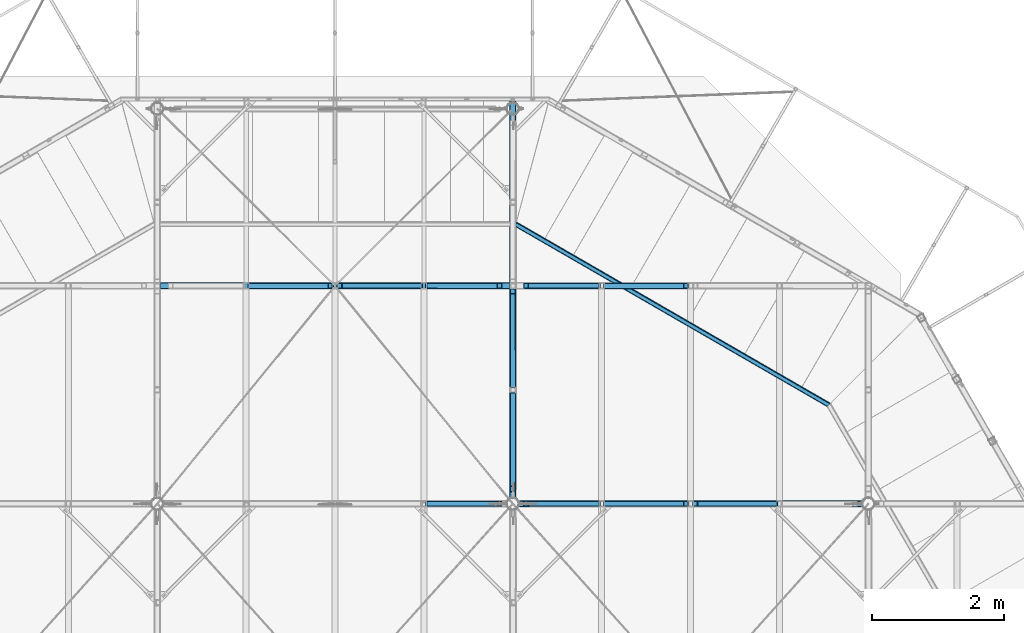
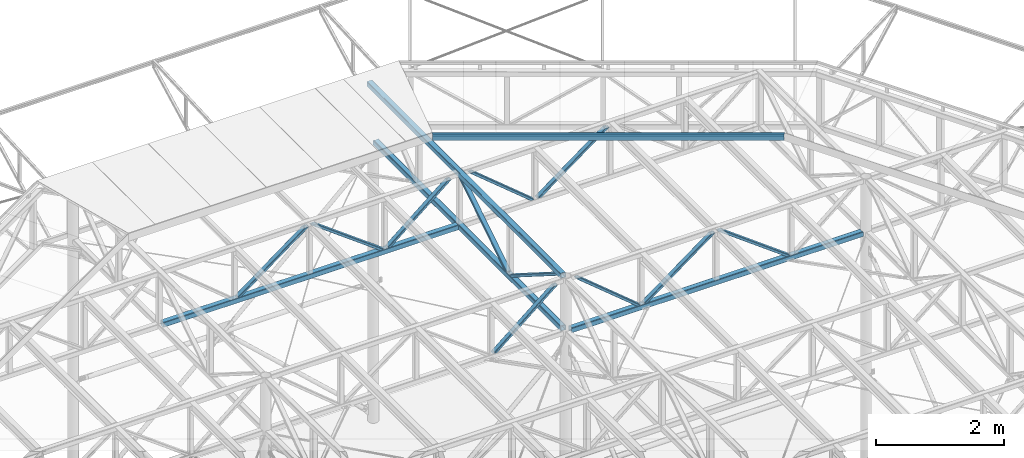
# One storey, part 57 of 132: 17 discrete accessories, 7 elements without a shape of their own.
"""IFC2X3 building model written with IfcOpenShell, lengths in millimetres."""

from ifc_helpers import new_model, si_unit, frame, origin_with_axes, origin_2d_with_axis, place, context, subcontext, project, spatial, hollow_rectangle, circle, l_section, extrude, boolean, clip, halfspace, material, type_object, element, aggregate, save


model = new_model("IFC2X3")

# Units and contexts
model_context = context("Model", 3, precision=1e-05, world=origin_with_axes())
body_context = subcontext(model_context, "Body", "Model", "MODEL_VIEW")
ifc_project = project(units=[si_unit("LENGTHUNIT", "METRE", prefix="MILLI"), si_unit("AREAUNIT", "SQUARE_METRE"), si_unit("VOLUMEUNIT", "CUBIC_METRE"), si_unit("MASSUNIT", "GRAM", prefix="KILO"), si_unit("TIMEUNIT", "SECOND"), si_unit("PLANEANGLEUNIT", "RADIAN"), si_unit("SOLIDANGLEUNIT", "STERADIAN"), si_unit("THERMODYNAMICTEMPERATUREUNIT", "DEGREE_CELSIUS"), si_unit("LUMINOUSINTENSITYUNIT", "LUMEN")], contexts=[model_context])

# Site, building, storey
site_placement = place(None, origin_with_axes())
site = spatial("IfcSite", under=ifc_project, at=site_placement, Name="Budowa", CompositionType="ELEMENT")
building_placement = place(site_placement, origin_with_axes())
building = spatial("IfcBuilding", under=site, at=building_placement, Name="Undefined", CompositionType="ELEMENT")
storey_placement = place(building_placement, origin_with_axes())
storey = spatial("IfcBuildingStorey", under=building, at=storey_placement, Name="Undefined", CompositionType="ELEMENT", Elevation=0.0)

# Assembly, discrete accessory
assembly_1_placement = place(storey_placement, origin_with_axes())
assembly_1 = element("IfcElementAssembly", 1, at=assembly_1_placement, inside=storey, Name="Steel Assembly", AssemblyPlace="NOTDEFINED", PredefinedType="RIGID_FRAME")
ifc_material = material(Name="STEEL/S235")
discrete_accessory_type = type_object("IfcDiscreteAccessoryType", Name="BEAM")
discrete_accessory_1_placement = place(assembly_1_placement, frame((19617.596240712, 19501.7456972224, 13965.0), z_axis=(0.5000000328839, 0.866025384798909, 0.0), x_axis=(-0.86602545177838, 0.499999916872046, 0.0)))
discrete_accessory_1 = element("IfcDiscreteAccessory", 2, at=discrete_accessory_1_placement, type_object=discrete_accessory_type, material=ifc_material, Name="BEAM", ObjectType="L50*6", context=body_context, shape_type="Clipping", body=[
    clip(clip(extrude(l_section(Depth=50.0, Width=50.0, Thickness=6.0, FilletRadius=7.0, EdgeRadius=3.5, at=origin_2d_with_axis()), frame((5526.24408815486, 0.0, 0.0), z_axis=(-1.0, 0.0, 0.0), x_axis=(0.0, -1.0, 0.0)), (0.0, 0.0, 1.0), 5576.68), halfspace(frame((5475.81107044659, 0.0, -25.0000000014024), z_axis=(-0.965925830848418, 0.0, 0.258819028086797), x_axis=(0.0, 1.0, 0.0)), True)), halfspace(frame((3.51101334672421e-08, 0.0, -24.9999999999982), z_axis=(-0.965925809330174, 0.0, -0.258819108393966), x_axis=(0.0, 1.0, 0.0)), False)),
])
aggregate(assembly_1, [discrete_accessory_1])

assembly_2_placement = place(storey_placement, origin_with_axes())
assembly_2 = element("IfcElementAssembly", 3, at=assembly_2_placement, inside=storey, Name="Steel Assembly", AssemblyPlace="NOTDEFINED", PredefinedType="RIGID_FRAME")
discrete_accessory_2_placement = place(assembly_2_placement, frame((19617.2577841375, 19505.9825575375, 13955.0), z_axis=(0.0, 0.0, 1.0), x_axis=(-0.86602545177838, 0.499999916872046, 0.0)))
discrete_accessory_2 = element("IfcDiscreteAccessory", 4, at=discrete_accessory_2_placement, type_object=discrete_accessory_type, material=ifc_material, Name="BEAM", ObjectType="L150*75*9", context=body_context, shape_type="Clipping", body=[
    clip(clip(extrude(l_section(Depth=150.0, Width=75.0, Thickness=9.0, FilletRadius=10.5, EdgeRadius=5.5, at=origin_2d_with_axis()), frame((5546.63751112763, 0.0, -1.81898940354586e-12), z_axis=(-1.0, 0.0, 0.0), x_axis=(0.0, -1.0, 0.0)), (0.0, 0.0, 1.0), 5622.29), halfspace(frame((5491.08417482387, -37.4999999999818, 1.81898940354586e-12), z_axis=(0.965925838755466, 0.258818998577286, 0.0), x_axis=(0.0, 0.0, 1.0)), False)), halfspace(frame((-20.0961854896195, -37.4999999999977, 0.0), z_axis=(0.965925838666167, -0.258818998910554, 0.0), x_axis=(0.0, 0.0, 1.0)), True)),
])
aggregate(assembly_2, [discrete_accessory_2])

# Assembly, discrete accessories
assembly_3_placement = place(storey_placement, origin_with_axes())
assembly_3 = element("IfcElementAssembly", 5, at=assembly_3_placement, inside=storey, Name="Steel Assembly", AssemblyPlace="NOTDEFINED", PredefinedType="RIGID_FRAME")
discrete_accessory_3_placement = place(assembly_3_placement, frame((14965.9999999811, 21310.0000000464, 13830.0), z_axis=(0.0, -1.0, 0.0), x_axis=(0.770567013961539, 0.0, -0.637358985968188)))
solid_1 = boolean("DIFFERENCE", boolean("DIFFERENCE", extrude(hollow_rectangle(XDim=90.0, YDim=90.0, WallThickness=6.0, InnerFilletRadius=6.0, OuterFilletRadius=12.0, at=origin_2d_with_axis()), frame((1537.1065565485, 38.528350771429, -6.22094376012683e-10), z_axis=(-0.637358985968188, 0.770567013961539, 0.0), x_axis=(-0.770567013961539, -0.637358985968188, 0.0)), (0.0, 0.0, 1.0), 900.0), halfspace(frame((1537.1065565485, 38.5283507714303, 999.999999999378), z_axis=(-0.637358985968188, 0.770567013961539, 0.0), x_axis=(-0.770567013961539, -0.637358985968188, 0.0)), True)), halfspace(frame((963.483469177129, 732.038663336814, 999.999999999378), z_axis=(0.637358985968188, -0.770567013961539, 0.0), x_axis=(0.770567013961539, 0.637358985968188, 0.0)), True))
discrete_accessory_3 = element("IfcDiscreteAccessory", 6, at=discrete_accessory_3_placement, type_object=discrete_accessory_type, material=ifc_material, Name="BEAM", ObjectType="RHS90*50*5", context=body_context, shape_type="CSG", body=[
    boolean("DIFFERENCE", boolean("DIFFERENCE", boolean("DIFFERENCE", extrude(hollow_rectangle(XDim=50.0, YDim=90.0, WallThickness=5.0, InnerFilletRadius=7.5, OuterFilletRadius=12.5, at=origin_2d_with_axis()), frame((1533.07734352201, 2.27373675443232e-12, 0.0), z_axis=(-1.0, 0.0, 0.0), x_axis=(0.0, -1.0, 0.0)), (0.0, 0.0, 1.0), 1497.18), solid_1), halfspace(frame((1537.1065565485, 38.5283507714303, 999.999999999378), z_axis=(-0.637358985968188, 0.770567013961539, 0.0), x_axis=(-0.770567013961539, -0.637358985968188, 0.0)), True)), halfspace(frame((31.867949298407, -38.5283506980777, 1000.0), z_axis=(0.637358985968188, -0.770567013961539, 0.0), x_axis=(0.770567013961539, 0.637358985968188, 0.0)), True)),
])
discrete_accessory_4_placement = place(assembly_3_placement, frame((17524.9999999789, 21310.0000000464, 13830.0), z_axis=(0.0, -1.0, 0.0), x_axis=(-0.803557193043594, 0.0, -0.595227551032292)))
solid_2 = boolean("DIFFERENCE", boolean("DIFFERENCE", extrude(hollow_rectangle(XDim=90.0, YDim=90.0, WallThickness=6.0, InnerFilletRadius=6.0, OuterFilletRadius=12.0, at=origin_2d_with_axis()), frame((565.466173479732, 763.379333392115, -6.22094376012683e-10), z_axis=(-0.595227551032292, -0.803557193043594, 0.0), x_axis=(0.803557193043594, -0.595227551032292, 0.0)), (0.0, 0.0, 1.0), 900.0), halfspace(frame((565.46617347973, 763.379333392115, 999.999999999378), z_axis=(-0.595227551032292, -0.803557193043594, 0.0), x_axis=(0.803557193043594, -0.595227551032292, 0.0)), True)), halfspace(frame((29.7613775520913, 40.1778596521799, 1000.0), z_axis=(0.595227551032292, 0.803557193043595, 0.0), x_axis=(-0.803557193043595, 0.595227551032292, 0.0)), True))
solid_3 = boolean("DIFFERENCE", boolean("DIFFERENCE", extrude(hollow_rectangle(XDim=90.0, YDim=90.0, WallThickness=6.0, InnerFilletRadius=6.0, OuterFilletRadius=12.0, at=origin_2d_with_axis()), frame((1650.26838408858, -40.1778605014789, -6.22094376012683e-10), z_axis=(-0.595227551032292, -0.803557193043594, 0.0), x_axis=(0.803557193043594, -0.595227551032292, 0.0)), (0.0, 0.0, 1.0), 900.0), halfspace(frame((1650.2683829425, -40.1778596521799, 1000.0), z_axis=(-0.595227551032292, -0.803557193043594, 0.0), x_axis=(0.803557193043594, -0.595227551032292, 0.0)), True)), halfspace(frame((1114.56358815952, -763.379334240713, 999.999999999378), z_axis=(0.595227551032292, 0.803557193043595, 0.0), x_axis=(-0.803557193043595, 0.595227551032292, 0.0)), True))
discrete_accessory_4 = element("IfcDiscreteAccessory", 7, at=discrete_accessory_4_placement, type_object=discrete_accessory_type, material=ifc_material, Name="BEAM", ObjectType="RHS90*50*5", context=body_context, shape_type="CSG", body=[
    boolean("DIFFERENCE", boolean("DIFFERENCE", boolean("DIFFERENCE", boolean("DIFFERENCE", extrude(hollow_rectangle(XDim=50.0, YDim=90.0, WallThickness=5.0, InnerFilletRadius=7.5, OuterFilletRadius=12.5, at=origin_2d_with_axis()), frame((1632.54994793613, 0.0, 0.0), z_axis=(-1.0, 0.0, 0.0), x_axis=(0.0, -1.0, 0.0)), (0.0, 0.0, 1.0), 1585.07), solid_2), solid_3), halfspace(frame((1650.2683829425, -40.1778596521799, 1000.0), z_axis=(-0.595227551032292, -0.803557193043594, 0.0), x_axis=(0.803557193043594, -0.595227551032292, 0.0)), True)), halfspace(frame((29.7613775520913, 40.1778596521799, 1000.0), z_axis=(0.595227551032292, 0.803557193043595, 0.0), x_axis=(-0.803557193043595, 0.595227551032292, 0.0)), True)),
])
aggregate(assembly_3, [discrete_accessory_3, discrete_accessory_4])

assembly_4_placement = place(storey_placement, origin_with_axes())
assembly_4 = element("IfcElementAssembly", 8, at=assembly_4_placement, inside=storey, Name="Steel Assembly", AssemblyPlace="NOTDEFINED", PredefinedType="RIGID_FRAME")
discrete_accessory_5_placement = place(assembly_4_placement, frame((14824.9999999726, 18148.0386350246, 13830.0000000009), z_axis=(1.0, 0.0, 0.0), x_axis=(0.0, 0.845133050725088, -0.534556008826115)))
solid_4 = boolean("DIFFERENCE", boolean("DIFFERENCE", extrude(hollow_rectangle(XDim=90.0, YDim=90.0, WallThickness=6.0, InnerFilletRadius=6.0, OuterFilletRadius=12.0, at=origin_2d_with_axis()), frame((1362.85050194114, 802.855744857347, -4.56930138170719e-09), z_axis=(0.534556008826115, -0.845133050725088, 0.0), x_axis=(-0.845133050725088, -0.534556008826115, 0.0)), (0.0, 0.0, 1.0), 900.0), halfspace(frame((1362.85050194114, 802.855744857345, -1000.00000000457), z_axis=(0.534556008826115, -0.845133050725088, 0.0), x_axis=(0.0, 0.0, 1.0)), True)), halfspace(frame((1843.95090988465, 42.2359992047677, -1000.00000000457), z_axis=(-0.534556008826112, 0.84513305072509, 0.0), x_axis=(0.0, 0.0, 1.0)), True))
discrete_accessory_5 = element("IfcDiscreteAccessory", 9, at=discrete_accessory_5_placement, type_object=discrete_accessory_type, material=ifc_material, Name="BEAM", ObjectType="RHS90*50*5", context=body_context, shape_type="CSG", body=[
    boolean("DIFFERENCE", boolean("DIFFERENCE", boolean("DIFFERENCE", extrude(hollow_rectangle(XDim=50.0, YDim=90.0, WallThickness=5.0, InnerFilletRadius=7.5, OuterFilletRadius=12.5, at=origin_2d_with_axis()), frame((1846.12761391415, 0.0, 0.0), z_axis=(-1.0, 0.0, 0.0), x_axis=(0.0, -1.0, 0.0)), (0.0, 0.0, 1.0), 1821.54), solid_4), halfspace(frame((1843.98356280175, 42.2566525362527, 1000.0), z_axis=(-0.534556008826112, 0.84513305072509, 0.0), x_axis=(-0.845133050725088, -0.534556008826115, 0.0)), True)), halfspace(frame((26.7278004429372, -42.2566525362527, 1000.0), z_axis=(0.534556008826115, -0.845133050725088, 0.0), x_axis=(0.845133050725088, 0.534556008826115, 0.0)), True)),
])
discrete_accessory_6_placement = place(assembly_4_placement, frame((14824.9999999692, 21310.0000000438, 13830.0000000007), z_axis=(1.0, 0.0, 0.0), x_axis=(0.0, -0.845133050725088, -0.534556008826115)))
solid_5 = boolean("DIFFERENCE", boolean("DIFFERENCE", extrude(hollow_rectangle(XDim=90.0, YDim=90.0, WallThickness=6.0, InnerFilletRadius=6.0, OuterFilletRadius=12.0, at=origin_2d_with_axis()), frame((26.727800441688, 42.2566525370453, -4.56930138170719e-09), z_axis=(0.534556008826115, 0.845133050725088, 0.0), x_axis=(0.845133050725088, -0.534556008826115, 0.0)), (0.0, 0.0, 1.0), 900.0), halfspace(frame((26.7278004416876, 42.2566525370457, -1000.00000000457), z_axis=(0.534556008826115, 0.845133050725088, 0.0), x_axis=(0.0, 0.0, 1.0)), True)), halfspace(frame((507.828208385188, 802.876398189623, -1000.00000000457), z_axis=(-0.534556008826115, -0.845133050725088, 0.0), x_axis=(0.0, 0.0, 1.0)), True))
solid_6 = boolean("DIFFERENCE", boolean("DIFFERENCE", extrude(hollow_rectangle(XDim=90.0, YDim=90.0, WallThickness=6.0, InnerFilletRadius=6.0, OuterFilletRadius=12.0, at=origin_2d_with_axis()), frame((1362.88315363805, -802.876397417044, -4.56930138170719e-09), z_axis=(0.534556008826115, 0.845133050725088, 0.0), x_axis=(0.845133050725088, -0.534556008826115, 0.0)), (0.0, 0.0, 1.0), 900.0), halfspace(frame((1362.88315363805, -802.876397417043, -1000.00000000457), z_axis=(0.534556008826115, 0.845133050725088, 0.0), x_axis=(0.0, 0.0, 1.0)), True)), halfspace(frame((1843.98356158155, -42.2566517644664, -1000.00000000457), z_axis=(-0.534556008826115, -0.845133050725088, 0.0), x_axis=(0.0, 0.0, 1.0)), True))
discrete_accessory_6 = element("IfcDiscreteAccessory", 10, at=discrete_accessory_6_placement, type_object=discrete_accessory_type, material=ifc_material, Name="BEAM", ObjectType="RHS90*50*5", context=body_context, shape_type="CSG", body=[
    boolean("DIFFERENCE", boolean("DIFFERENCE", boolean("DIFFERENCE", boolean("DIFFERENCE", extrude(hollow_rectangle(XDim=50.0, YDim=90.0, WallThickness=5.0, InnerFilletRadius=7.5, OuterFilletRadius=12.5, at=origin_2d_with_axis()), frame((1835.3048903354, 0.0, 0.0), z_axis=(-1.0, 0.0, 0.0), x_axis=(0.0, -1.0, 0.0)), (0.0, 0.0, 1.0), 1799.9), solid_5), solid_6), halfspace(frame((1843.98356280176, -42.2566525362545, 1000.0), z_axis=(-0.534556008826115, -0.845133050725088, 0.0), x_axis=(0.845133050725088, -0.534556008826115, 0.0)), True)), halfspace(frame((26.7278004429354, 42.2566525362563, 1000.0), z_axis=(0.534556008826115, 0.845133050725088, 0.0), x_axis=(-0.845133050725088, 0.534556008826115, 0.0)), True)),
])
discrete_accessory_7_placement = place(assembly_4_placement, frame((14824.999999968, 23911.1000000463, 12830.0), z_axis=(1.0, 0.0, 0.0), x_axis=(0.0, -1.0, 0.0)))
discrete_accessory_7 = element("IfcDiscreteAccessory", 11, at=discrete_accessory_7_placement, type_object=discrete_accessory_type, material=ifc_material, Name="BEAM", ObjectType="SHS100*8", context=body_context, shape_type="CSG", body=[
    boolean("DIFFERENCE", boolean("DIFFERENCE", boolean("DIFFERENCE", boolean("DIFFERENCE", extrude(hollow_rectangle(XDim=100.0, YDim=100.0, WallThickness=8.0, InnerFilletRadius=8.0, OuterFilletRadius=16.0, at=origin_2d_with_axis()), frame((5911.09999999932, 0.0, 0.0), z_axis=(-1.0, 0.0, 0.0), x_axis=(0.0, -1.0, 0.0)), (0.0, 0.0, 1.0), 6000.0), extrude(circle(Radius=89.9, at=origin_2d_with_axis()), frame((-88.9000001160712, -1950.0, -7.27595761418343e-12), z_axis=(0.0, 1.0, 0.0), x_axis=(1.0, 0.0, 0.0)), (0.0, 0.0, 1.0), 2100.0)), extrude(circle(Radius=89.9, at=origin_2d_with_axis()), frame((5911.09999999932, -1950.0, -7.27595761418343e-12), z_axis=(0.0, 1.0, 0.0), x_axis=(1.0, 0.0, 0.0)), (0.0, 0.0, 1.0), 2100.0)), halfspace(frame((5911.09999999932, 5339.0, -7.27595761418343e-12), z_axis=(-1.0, 0.0, 0.0), x_axis=(0.0, 0.0, 1.0)), True)), halfspace(frame((-88.9000001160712, 5339.0, -7.27595761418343e-12), z_axis=(-1.0, 0.0, 0.0), x_axis=(0.0, 0.0, 1.0)), False)),
])
discrete_accessory_8_placement = place(assembly_4_placement, frame((14824.999999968, 24114.9000000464, 13830.0), z_axis=(1.0, 0.0, 0.0), x_axis=(0.0, -1.0, 0.0)))
discrete_accessory_8 = element("IfcDiscreteAccessory", 12, at=discrete_accessory_8_placement, type_object=discrete_accessory_type, material=ifc_material, Name="BEAM", ObjectType="SHS100*8", context=body_context, shape_type="CSG", body=[
    boolean("DIFFERENCE", boolean("DIFFERENCE", extrude(hollow_rectangle(XDim=100.0, YDim=100.0, WallThickness=8.0, InnerFilletRadius=8.0, OuterFilletRadius=16.0, at=origin_2d_with_axis()), frame((6114.89999999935, 0.0, 0.0), z_axis=(-1.0, 0.0, 0.0), x_axis=(0.0, -1.0, 0.0)), (0.0, 0.0, 1.0), 6114.9), extrude(circle(Radius=89.9, at=origin_2d_with_axis()), frame((6114.89999999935, -1950.0, -7.27595761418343e-12), z_axis=(0.0, 1.0, 0.0), x_axis=(1.0, 0.0, 0.0)), (0.0, 0.0, 1.0), 2100.0)), halfspace(frame((6114.89999999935, 6339.0, -7.27595761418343e-12), z_axis=(-1.0, 0.0, 0.0), x_axis=(0.0, 0.0, 1.0)), True)),
])
aggregate(assembly_4, [discrete_accessory_5, discrete_accessory_6, discrete_accessory_7, discrete_accessory_8])

assembly_5_placement = place(storey_placement, origin_with_axes())
assembly_5 = element("IfcElementAssembly", 13, at=assembly_5_placement, inside=storey, Name="Steel Assembly", AssemblyPlace="NOTDEFINED", PredefinedType="RIGID_FRAME")
discrete_accessory_9_placement = place(assembly_5_placement, frame((14683.9999999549, 21310.0000000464, 13830.0), z_axis=(0.0, -1.0, 0.0), x_axis=(-0.770567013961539, 0.0, -0.637358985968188)))
solid_7 = boolean("DIFFERENCE", boolean("DIFFERENCE", extrude(hollow_rectangle(XDim=90.0, YDim=90.0, WallThickness=6.0, InnerFilletRadius=6.0, OuterFilletRadius=12.0, at=origin_2d_with_axis()), frame((1537.1065565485, -38.5283507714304, -6.22094376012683e-10), z_axis=(-0.637358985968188, -0.770567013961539, 0.0), x_axis=(0.770567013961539, -0.637358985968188, 0.0)), (0.0, 0.0, 1.0), 900.0), halfspace(frame((1537.1065565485, -38.5283507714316, 999.999999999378), z_axis=(-0.637358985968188, -0.770567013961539, 0.0), x_axis=(0.770567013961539, -0.637358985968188, 0.0)), True)), halfspace(frame((963.483469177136, -732.038663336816, 999.999999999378), z_axis=(0.637358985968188, 0.770567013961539, 0.0), x_axis=(-0.770567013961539, 0.637358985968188, 0.0)), True))
discrete_accessory_9 = element("IfcDiscreteAccessory", 14, at=discrete_accessory_9_placement, type_object=discrete_accessory_type, material=ifc_material, Name="BEAM", ObjectType="RHS90*50*5", context=body_context, shape_type="CSG", body=[
    boolean("DIFFERENCE", boolean("DIFFERENCE", boolean("DIFFERENCE", extrude(hollow_rectangle(XDim=50.0, YDim=90.0, WallThickness=5.0, InnerFilletRadius=7.5, OuterFilletRadius=12.5, at=origin_2d_with_axis()), frame((1533.07734352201, 2.27373675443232e-12, 0.0), z_axis=(-1.0, 0.0, 0.0), x_axis=(0.0, -1.0, 0.0)), (0.0, 0.0, 1.0), 1497.18), solid_7), halfspace(frame((1537.1065565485, -38.5283507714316, 999.999999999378), z_axis=(-0.637358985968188, -0.770567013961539, 0.0), x_axis=(0.770567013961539, -0.637358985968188, 0.0)), True)), halfspace(frame((31.867949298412, 38.52835069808, 1000.0), z_axis=(0.637358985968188, 0.770567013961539, 0.0), x_axis=(-0.770567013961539, 0.637358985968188, 0.0)), True)),
])
discrete_accessory_10_placement = place(assembly_5_placement, frame((12124.9999999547, 21310.0000000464, 13830.0), z_axis=(0.0, -1.0, 0.0), x_axis=(-0.803557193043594, 0.0, -0.595227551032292)))
solid_8 = boolean("DIFFERENCE", boolean("DIFFERENCE", extrude(hollow_rectangle(XDim=90.0, YDim=90.0, WallThickness=6.0, InnerFilletRadius=6.0, OuterFilletRadius=12.0, at=origin_2d_with_axis()), frame((565.466173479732, 763.379333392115, -6.22094376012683e-10), z_axis=(-0.595227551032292, -0.803557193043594, 0.0), x_axis=(0.803557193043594, -0.595227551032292, 0.0)), (0.0, 0.0, 1.0), 900.0), halfspace(frame((565.46617347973, 763.379333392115, 999.999999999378), z_axis=(-0.595227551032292, -0.803557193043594, 0.0), x_axis=(0.803557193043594, -0.595227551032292, 0.0)), True)), halfspace(frame((29.7613775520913, 40.1778596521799, 1000.0), z_axis=(0.595227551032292, 0.803557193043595, 0.0), x_axis=(-0.803557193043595, 0.595227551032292, 0.0)), True))
solid_9 = boolean("DIFFERENCE", boolean("DIFFERENCE", extrude(hollow_rectangle(XDim=90.0, YDim=90.0, WallThickness=6.0, InnerFilletRadius=6.0, OuterFilletRadius=12.0, at=origin_2d_with_axis()), frame((1650.26838408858, -40.1778605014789, -6.22094376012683e-10), z_axis=(-0.595227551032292, -0.803557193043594, 0.0), x_axis=(0.803557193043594, -0.595227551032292, 0.0)), (0.0, 0.0, 1.0), 900.0), halfspace(frame((1650.2683829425, -40.1778596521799, 1000.0), z_axis=(-0.595227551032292, -0.803557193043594, 0.0), x_axis=(0.803557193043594, -0.595227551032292, 0.0)), True)), halfspace(frame((1114.56358815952, -763.379334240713, 999.999999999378), z_axis=(0.595227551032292, 0.803557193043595, 0.0), x_axis=(-0.803557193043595, 0.595227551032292, 0.0)), True))
discrete_accessory_10 = element("IfcDiscreteAccessory", 15, at=discrete_accessory_10_placement, type_object=discrete_accessory_type, material=ifc_material, Name="BEAM", ObjectType="RHS90*50*5", context=body_context, shape_type="CSG", body=[
    boolean("DIFFERENCE", boolean("DIFFERENCE", boolean("DIFFERENCE", boolean("DIFFERENCE", extrude(hollow_rectangle(XDim=50.0, YDim=90.0, WallThickness=5.0, InnerFilletRadius=7.5, OuterFilletRadius=12.5, at=origin_2d_with_axis()), frame((1632.54994793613, 0.0, 0.0), z_axis=(-1.0, 0.0, 0.0), x_axis=(0.0, -1.0, 0.0)), (0.0, 0.0, 1.0), 1585.07), solid_8), solid_9), halfspace(frame((1650.2683829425, -40.1778596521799, 1000.0), z_axis=(-0.595227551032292, -0.803557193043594, 0.0), x_axis=(0.803557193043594, -0.595227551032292, 0.0)), True)), halfspace(frame((29.7613775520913, 40.1778596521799, 1000.0), z_axis=(0.595227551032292, 0.803557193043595, 0.0), x_axis=(-0.803557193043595, 0.595227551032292, 0.0)), True)),
])
discrete_accessory_11_placement = place(assembly_5_placement, frame((12124.9999999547, 21310.0000000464, 13830.0), z_axis=(0.0, -1.0, 0.0), x_axis=(0.803557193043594, 0.0, -0.595227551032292)))
solid_10 = boolean("DIFFERENCE", boolean("DIFFERENCE", extrude(hollow_rectangle(XDim=90.0, YDim=90.0, WallThickness=6.0, InnerFilletRadius=6.0, OuterFilletRadius=12.0, at=origin_2d_with_axis()), frame((1650.26838408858, 40.1778605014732, -6.22094376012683e-10), z_axis=(-0.595227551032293, 0.803557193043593, 0.0), x_axis=(-0.803557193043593, -0.595227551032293, 0.0)), (0.0, 0.0, 1.0), 900.0), halfspace(frame((1650.2683829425, 40.1778596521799, 1000.0), z_axis=(-0.595227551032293, 0.803557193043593, 0.0), x_axis=(-0.803557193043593, -0.595227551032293, 0.0)), True)), halfspace(frame((1114.56358815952, 763.379334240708, 999.999999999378), z_axis=(0.595227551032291, -0.803557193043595, 0.0), x_axis=(0.803557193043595, 0.595227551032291, 0.0)), True))
solid_11 = boolean("DIFFERENCE", boolean("DIFFERENCE", extrude(hollow_rectangle(XDim=90.0, YDim=90.0, WallThickness=6.0, InnerFilletRadius=6.0, OuterFilletRadius=12.0, at=origin_2d_with_axis()), frame((565.46617347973, -763.379333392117, -6.22094376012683e-10), z_axis=(-0.595227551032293, 0.803557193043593, 0.0), x_axis=(-0.803557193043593, -0.595227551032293, 0.0)), (0.0, 0.0, 1.0), 900.0), halfspace(frame((565.46617347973, -763.37933339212, 999.999999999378), z_axis=(-0.595227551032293, 0.803557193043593, 0.0), x_axis=(-0.803557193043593, -0.595227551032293, 0.0)), True)), halfspace(frame((29.7613775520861, -40.1778596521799, 1000.0), z_axis=(0.595227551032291, -0.803557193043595, 0.0), x_axis=(0.803557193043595, 0.595227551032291, 0.0)), True))
discrete_accessory_11 = element("IfcDiscreteAccessory", 16, at=discrete_accessory_11_placement, type_object=discrete_accessory_type, material=ifc_material, Name="BEAM", ObjectType="RHS90*50*5", context=body_context, shape_type="CSG", body=[
    boolean("DIFFERENCE", boolean("DIFFERENCE", boolean("DIFFERENCE", boolean("DIFFERENCE", extrude(hollow_rectangle(XDim=50.0, YDim=90.0, WallThickness=5.0, InnerFilletRadius=7.5, OuterFilletRadius=12.5, at=origin_2d_with_axis()), frame((1632.54994793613, 0.0, 0.0), z_axis=(-1.0, 0.0, 0.0), x_axis=(0.0, -1.0, 0.0)), (0.0, 0.0, 1.0), 1585.07), solid_10), solid_11), halfspace(frame((1650.2683829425, 40.1778596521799, 1000.0), z_axis=(-0.595227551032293, 0.803557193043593, 0.0), x_axis=(-0.803557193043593, -0.595227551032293, 0.0)), True)), halfspace(frame((29.7613775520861, -40.1778596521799, 1000.0), z_axis=(0.595227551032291, -0.803557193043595, 0.0), x_axis=(0.803557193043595, 0.595227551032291, 0.0)), True)),
])
discrete_accessory_12_placement = place(assembly_5_placement, frame((9474.9999999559, 21310.000000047, 12830.0), z_axis=(0.0, -1.0, 0.0), x_axis=(1.0, 0.0, 0.0)))
discrete_accessory_12 = element("IfcDiscreteAccessory", 17, at=discrete_accessory_12_placement, type_object=discrete_accessory_type, material=ifc_material, Name="BEAM", ObjectType="SHS100*8", context=body_context, shape_type="SweptSolid", body=[
    extrude(hollow_rectangle(XDim=100.0, YDim=100.0, WallThickness=8.0, InnerFilletRadius=8.0, OuterFilletRadius=16.0, at=origin_2d_with_axis()), frame((5300.0, 0.0, 0.0), z_axis=(-1.0, 0.0, 0.0), x_axis=(0.0, -1.0, 0.0)), (0.0, 0.0, 1.0), 5300.0),
])
aggregate(assembly_5, [discrete_accessory_9, discrete_accessory_10, discrete_accessory_11, discrete_accessory_12])

assembly_6_placement = place(storey_placement, origin_with_axes())
assembly_6 = element("IfcElementAssembly", 18, at=assembly_6_placement, inside=storey, Name="Steel Assembly", AssemblyPlace="NOTDEFINED", PredefinedType="RIGID_FRAME")
discrete_accessory_13_placement = place(assembly_6_placement, frame((14965.9999999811, 18000.0000000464, 13830.0), z_axis=(0.0, -1.0, 0.0), x_axis=(0.770567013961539, 0.0, -0.637358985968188)))
solid_12 = boolean("DIFFERENCE", boolean("DIFFERENCE", extrude(hollow_rectangle(XDim=90.0, YDim=90.0, WallThickness=6.0, InnerFilletRadius=6.0, OuterFilletRadius=12.0, at=origin_2d_with_axis()), frame((1537.1065565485, 38.528350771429, -6.22094376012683e-10), z_axis=(-0.637358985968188, 0.770567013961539, 0.0), x_axis=(-0.770567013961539, -0.637358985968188, 0.0)), (0.0, 0.0, 1.0), 900.0), halfspace(frame((1537.1065565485, 38.5283507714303, 999.999999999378), z_axis=(-0.637358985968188, 0.770567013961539, 0.0), x_axis=(-0.770567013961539, -0.637358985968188, 0.0)), True)), halfspace(frame((963.483469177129, 732.038663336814, 999.999999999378), z_axis=(0.637358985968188, -0.770567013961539, 0.0), x_axis=(0.770567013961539, 0.637358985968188, 0.0)), True))
discrete_accessory_13 = element("IfcDiscreteAccessory", 19, at=discrete_accessory_13_placement, type_object=discrete_accessory_type, material=ifc_material, Name="BEAM", ObjectType="RHS90*50*5", context=body_context, shape_type="CSG", body=[
    boolean("DIFFERENCE", boolean("DIFFERENCE", boolean("DIFFERENCE", extrude(hollow_rectangle(XDim=50.0, YDim=90.0, WallThickness=5.0, InnerFilletRadius=7.5, OuterFilletRadius=12.5, at=origin_2d_with_axis()), frame((1533.07734352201, 2.27373675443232e-12, 0.0), z_axis=(-1.0, 0.0, 0.0), x_axis=(0.0, -1.0, 0.0)), (0.0, 0.0, 1.0), 1497.18), solid_12), halfspace(frame((1537.1065565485, 38.5283507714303, 999.999999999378), z_axis=(-0.637358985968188, 0.770567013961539, 0.0), x_axis=(-0.770567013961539, -0.637358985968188, 0.0)), True)), halfspace(frame((31.867949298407, -38.5283506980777, 1000.0), z_axis=(0.637358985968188, -0.770567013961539, 0.0), x_axis=(0.770567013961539, 0.637358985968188, 0.0)), True)),
])
discrete_accessory_14_placement = place(assembly_6_placement, frame((17524.9999999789, 18000.0000000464, 13830.0), z_axis=(0.0, -1.0, 0.0), x_axis=(-0.803557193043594, 0.0, -0.595227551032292)))
solid_13 = boolean("DIFFERENCE", boolean("DIFFERENCE", extrude(hollow_rectangle(XDim=90.0, YDim=90.0, WallThickness=6.0, InnerFilletRadius=6.0, OuterFilletRadius=12.0, at=origin_2d_with_axis()), frame((565.466173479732, 763.379333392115, -6.22094376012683e-10), z_axis=(-0.595227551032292, -0.803557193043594, 0.0), x_axis=(0.803557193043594, -0.595227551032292, 0.0)), (0.0, 0.0, 1.0), 900.0), halfspace(frame((565.46617347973, 763.379333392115, 999.999999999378), z_axis=(-0.595227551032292, -0.803557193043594, 0.0), x_axis=(0.803557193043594, -0.595227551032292, 0.0)), True)), halfspace(frame((29.7613775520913, 40.1778596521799, 1000.0), z_axis=(0.595227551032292, 0.803557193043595, 0.0), x_axis=(-0.803557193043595, 0.595227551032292, 0.0)), True))
solid_14 = boolean("DIFFERENCE", boolean("DIFFERENCE", extrude(hollow_rectangle(XDim=90.0, YDim=90.0, WallThickness=6.0, InnerFilletRadius=6.0, OuterFilletRadius=12.0, at=origin_2d_with_axis()), frame((1650.26838408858, -40.1778605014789, -6.22094376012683e-10), z_axis=(-0.595227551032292, -0.803557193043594, 0.0), x_axis=(0.803557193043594, -0.595227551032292, 0.0)), (0.0, 0.0, 1.0), 900.0), halfspace(frame((1650.2683829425, -40.1778596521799, 1000.0), z_axis=(-0.595227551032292, -0.803557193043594, 0.0), x_axis=(0.803557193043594, -0.595227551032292, 0.0)), True)), halfspace(frame((1114.56358815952, -763.379334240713, 999.999999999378), z_axis=(0.595227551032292, 0.803557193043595, 0.0), x_axis=(-0.803557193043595, 0.595227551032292, 0.0)), True))
discrete_accessory_14 = element("IfcDiscreteAccessory", 20, at=discrete_accessory_14_placement, type_object=discrete_accessory_type, material=ifc_material, Name="BEAM", ObjectType="RHS90*50*5", context=body_context, shape_type="CSG", body=[
    boolean("DIFFERENCE", boolean("DIFFERENCE", boolean("DIFFERENCE", boolean("DIFFERENCE", extrude(hollow_rectangle(XDim=50.0, YDim=90.0, WallThickness=5.0, InnerFilletRadius=7.5, OuterFilletRadius=12.5, at=origin_2d_with_axis()), frame((1632.54994793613, 0.0, 0.0), z_axis=(-1.0, 0.0, 0.0), x_axis=(0.0, -1.0, 0.0)), (0.0, 0.0, 1.0), 1585.07), solid_13), solid_14), halfspace(frame((1650.2683829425, -40.1778596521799, 1000.0), z_axis=(-0.595227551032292, -0.803557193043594, 0.0), x_axis=(0.803557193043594, -0.595227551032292, 0.0)), True)), halfspace(frame((29.7613775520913, 40.1778596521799, 1000.0), z_axis=(0.595227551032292, 0.803557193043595, 0.0), x_axis=(-0.803557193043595, 0.595227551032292, 0.0)), True)),
])
discrete_accessory_15_placement = place(assembly_6_placement, frame((17524.9999999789, 18000.0000000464, 13830.0), z_axis=(0.0, -1.0, 0.0), x_axis=(0.803557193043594, 0.0, -0.595227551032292)))
solid_15 = boolean("DIFFERENCE", boolean("DIFFERENCE", extrude(hollow_rectangle(XDim=90.0, YDim=90.0, WallThickness=6.0, InnerFilletRadius=6.0, OuterFilletRadius=12.0, at=origin_2d_with_axis()), frame((1650.26838408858, 40.1778605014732, -6.22094376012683e-10), z_axis=(-0.595227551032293, 0.803557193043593, 0.0), x_axis=(-0.803557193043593, -0.595227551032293, 0.0)), (0.0, 0.0, 1.0), 900.0), halfspace(frame((1650.2683829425, 40.1778596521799, 1000.0), z_axis=(-0.595227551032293, 0.803557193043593, 0.0), x_axis=(-0.803557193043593, -0.595227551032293, 0.0)), True)), halfspace(frame((1114.56358815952, 763.379334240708, 999.999999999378), z_axis=(0.595227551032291, -0.803557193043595, 0.0), x_axis=(0.803557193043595, 0.595227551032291, 0.0)), True))
solid_16 = boolean("DIFFERENCE", boolean("DIFFERENCE", extrude(hollow_rectangle(XDim=90.0, YDim=90.0, WallThickness=6.0, InnerFilletRadius=6.0, OuterFilletRadius=12.0, at=origin_2d_with_axis()), frame((565.46617347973, -763.379333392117, -6.22094376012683e-10), z_axis=(-0.595227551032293, 0.803557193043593, 0.0), x_axis=(-0.803557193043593, -0.595227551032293, 0.0)), (0.0, 0.0, 1.0), 900.0), halfspace(frame((565.46617347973, -763.37933339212, 999.999999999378), z_axis=(-0.595227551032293, 0.803557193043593, 0.0), x_axis=(-0.803557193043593, -0.595227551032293, 0.0)), True)), halfspace(frame((29.7613775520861, -40.1778596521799, 1000.0), z_axis=(0.595227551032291, -0.803557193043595, 0.0), x_axis=(0.803557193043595, 0.595227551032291, 0.0)), True))
discrete_accessory_15 = element("IfcDiscreteAccessory", 21, at=discrete_accessory_15_placement, type_object=discrete_accessory_type, material=ifc_material, Name="BEAM", ObjectType="RHS90*50*5", context=body_context, shape_type="CSG", body=[
    boolean("DIFFERENCE", boolean("DIFFERENCE", boolean("DIFFERENCE", boolean("DIFFERENCE", extrude(hollow_rectangle(XDim=50.0, YDim=90.0, WallThickness=5.0, InnerFilletRadius=7.5, OuterFilletRadius=12.5, at=origin_2d_with_axis()), frame((1632.54994793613, 0.0, 0.0), z_axis=(-1.0, 0.0, 0.0), x_axis=(0.0, -1.0, 0.0)), (0.0, 0.0, 1.0), 1585.07), solid_15), solid_16), halfspace(frame((1650.2683829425, 40.1778596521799, 1000.0), z_axis=(-0.595227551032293, 0.803557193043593, 0.0), x_axis=(-0.803557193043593, -0.595227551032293, 0.0)), True)), halfspace(frame((29.7613775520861, -40.1778596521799, 1000.0), z_axis=(0.595227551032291, -0.803557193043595, 0.0), x_axis=(0.803557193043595, 0.595227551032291, 0.0)), True)),
])
discrete_accessory_16_placement = place(assembly_6_placement, frame((14913.9999999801, 18000.000000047, 12830.0), z_axis=(0.0, -1.0, 0.0), x_axis=(1.0, 0.0, 0.0)))
discrete_accessory_16 = element("IfcDiscreteAccessory", 22, at=discrete_accessory_16_placement, type_object=discrete_accessory_type, material=ifc_material, Name="BEAM", ObjectType="SHS100*8", context=body_context, shape_type="CSG", body=[
    boolean("DIFFERENCE", boolean("DIFFERENCE", boolean("DIFFERENCE", boolean("DIFFERENCE", extrude(hollow_rectangle(XDim=100.0, YDim=100.0, WallThickness=8.0, InnerFilletRadius=8.0, OuterFilletRadius=16.0, at=origin_2d_with_axis()), frame((5311.00000001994, 0.0, 0.0), z_axis=(-1.0, 0.0, 0.0), x_axis=(0.0, -1.0, 0.0)), (0.0, 0.0, 1.0), 5400.0), extrude(circle(Radius=89.9, at=origin_2d_with_axis()), frame((-89.0000000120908, 1950.0, 1.09139364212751e-11), z_axis=(0.0, -1.0, 0.0), x_axis=(0.0, 0.0, 1.0)), (0.0, 0.0, 1.0), 2100.0)), extrude(circle(Radius=89.9, at=origin_2d_with_axis()), frame((5311.00000001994, 1950.0, 7.27595761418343e-12), z_axis=(0.0, -1.0, 0.0), x_axis=(0.0, 0.0, 1.0)), (0.0, 0.0, 1.0), 2100.0)), halfspace(frame((5311.00000001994, -5339.0, 7.27595761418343e-12), z_axis=(-1.0, 0.0, 0.0), x_axis=(0.0, 0.0, -1.0)), True)), halfspace(frame((-89.0000000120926, -5339.0, 1.09139364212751e-11), z_axis=(-1.0, 0.0, 0.0), x_axis=(0.0, 0.0, -1.0)), False)),
])
aggregate(assembly_6, [discrete_accessory_13, discrete_accessory_14, discrete_accessory_15, discrete_accessory_16])

# Assembly, discrete accessory
assembly_7_placement = place(storey_placement, origin_with_axes())
assembly_7 = element("IfcElementAssembly", 23, at=assembly_7_placement, inside=storey, Name="Steel Assembly", AssemblyPlace="NOTDEFINED", PredefinedType="RIGID_FRAME")
discrete_accessory_17_placement = place(assembly_7_placement, frame((14683.9999999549, 18000.0000000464, 13830.0), z_axis=(0.0, -1.0, 0.0), x_axis=(-0.770567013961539, 0.0, -0.637358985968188)))
solid_17 = boolean("DIFFERENCE", boolean("DIFFERENCE", extrude(hollow_rectangle(XDim=90.0, YDim=90.0, WallThickness=6.0, InnerFilletRadius=6.0, OuterFilletRadius=12.0, at=origin_2d_with_axis()), frame((1537.1065565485, -38.5283507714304, -6.22094376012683e-10), z_axis=(-0.637358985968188, -0.770567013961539, 0.0), x_axis=(0.770567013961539, -0.637358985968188, 0.0)), (0.0, 0.0, 1.0), 900.0), halfspace(frame((1537.1065565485, -38.5283507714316, 999.999999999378), z_axis=(-0.637358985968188, -0.770567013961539, 0.0), x_axis=(0.770567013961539, -0.637358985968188, 0.0)), True)), halfspace(frame((963.483469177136, -732.038663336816, 999.999999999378), z_axis=(0.637358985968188, 0.770567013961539, 0.0), x_axis=(-0.770567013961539, 0.637358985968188, 0.0)), True))
discrete_accessory_17 = element("IfcDiscreteAccessory", 24, at=discrete_accessory_17_placement, type_object=discrete_accessory_type, material=ifc_material, Name="BEAM", ObjectType="RHS90*50*5", context=body_context, shape_type="CSG", body=[
    boolean("DIFFERENCE", boolean("DIFFERENCE", boolean("DIFFERENCE", extrude(hollow_rectangle(XDim=50.0, YDim=90.0, WallThickness=5.0, InnerFilletRadius=7.5, OuterFilletRadius=12.5, at=origin_2d_with_axis()), frame((1533.07734352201, 2.27373675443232e-12, 0.0), z_axis=(-1.0, 0.0, 0.0), x_axis=(0.0, -1.0, 0.0)), (0.0, 0.0, 1.0), 1497.18), solid_17), halfspace(frame((1537.1065565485, -38.5283507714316, 999.999999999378), z_axis=(-0.637358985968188, -0.770567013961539, 0.0), x_axis=(0.770567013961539, -0.637358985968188, 0.0)), True)), halfspace(frame((31.867949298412, 38.52835069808, 1000.0), z_axis=(0.637358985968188, 0.770567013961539, 0.0), x_axis=(-0.770567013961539, 0.637358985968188, 0.0)), True)),
])
aggregate(assembly_7, [discrete_accessory_17])

save(model, "model.ifc")
